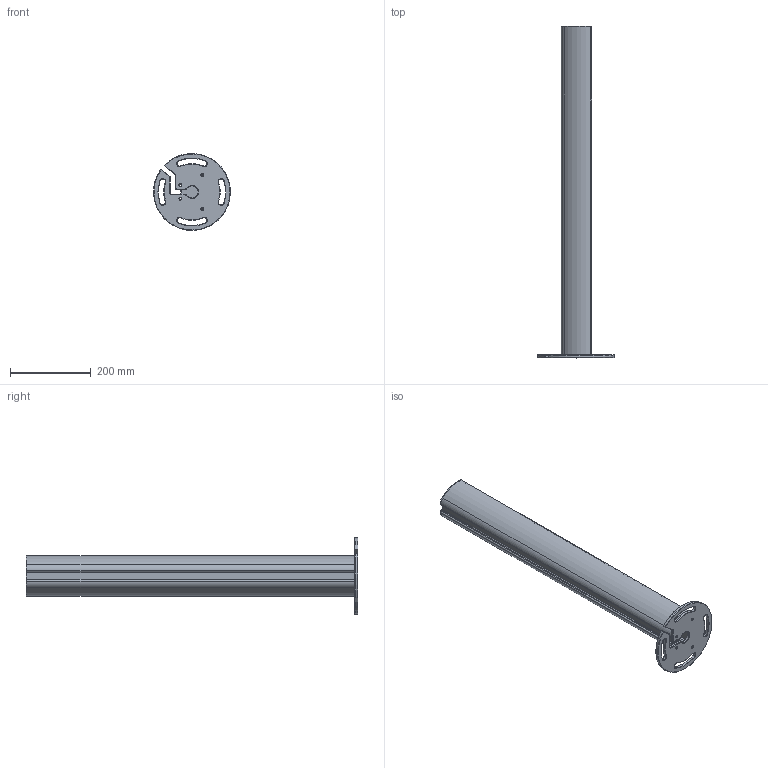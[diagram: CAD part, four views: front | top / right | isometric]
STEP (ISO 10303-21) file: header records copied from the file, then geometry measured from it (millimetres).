
FILE_DESCRIPTION((''),'2;1');
FILE_NAME('ESQC_ASM','2022-07-19T11:53:21',('18822879468'),(''),'CREO PARAMETRIC BY PTC INC, 2019010','CREO PARAMETRIC BY PTC INC, 2019010','');
FILE_SCHEMA(('CONFIG_CONTROL_DESIGN'));
Length unit declared in the file: millimetre
Products named in the file (5): 00; _-0001; _-0002; 000; ESQC_ASM
Assembly tree (4 placements, depth 2):
  ESQC_ASM
    00
    _-0001
    _-0002
    000
Bounding box: 189.81 x 820 x 189.85 mm (x, y, z)
Volume: 1278597.6 mm3; surface area: 663374.2 mm2
Topology: 4 solids, 4 shells, 239 faces, 613 edges, 378 vertices
Faces by surface type: cylinder 98, plane 73, cone 68
Entity records: 7388 total; most frequent: DIRECTION 1365, CARTESIAN_POINT 1235, ORIENTED_EDGE 1218, EDGE_CURVE 609, AXIS2_PLACEMENT_3D 508, VERTEX_POINT 378, VECTOR 349, LINE 349
